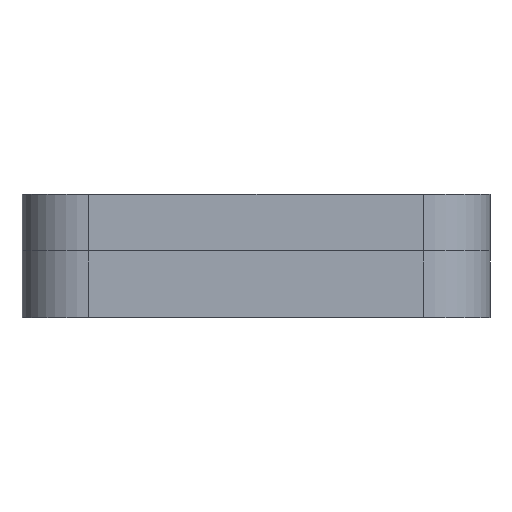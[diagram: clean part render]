
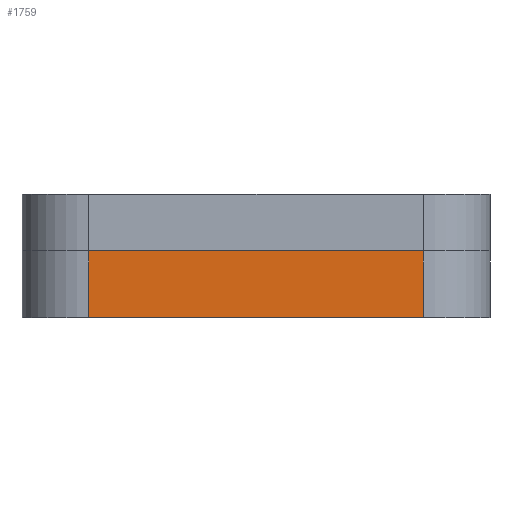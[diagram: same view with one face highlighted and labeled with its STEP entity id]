
A CAD part, front view. The second image highlights one B-rep face of the part: STEP entity #1759.
In plain terms, the highlighted planar face has unit normal (0, -1, 0).
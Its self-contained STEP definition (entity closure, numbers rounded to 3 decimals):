
#32 = PLANE('',#33);
#33 = AXIS2_PLACEMENT_3D('',#34,#35,#36);
#34 = CARTESIAN_POINT('',(0.,0.,13.));
#35 = DIRECTION('',(0.,0.,1.));
#36 = DIRECTION('',(1.,0.,0.));
#263 = VERTEX_POINT('',#264);
#264 = CARTESIAN_POINT('',(-32.5,-45.5,13.));
#279 = CYLINDRICAL_SURFACE('',#280,13.);
#280 = AXIS2_PLACEMENT_3D('',#281,#282,#283);
#281 = CARTESIAN_POINT('',(-32.5,-32.5,0.));
#282 = DIRECTION('',(-0.,-0.,-1.));
#283 = DIRECTION('',(-1.,0.,0.));
#291 = EDGE_CURVE('',#263,#292,#294,.T.);
#292 = VERTEX_POINT('',#293);
#293 = CARTESIAN_POINT('',(32.5,-45.5,13.));
#294 = SURFACE_CURVE('',#295,(#299,#306),.PCURVE_S1.);
#295 = LINE('',#296,#297);
#296 = CARTESIAN_POINT('',(-32.5,-45.5,13.));
#297 = VECTOR('',#298,1.);
#298 = DIRECTION('',(1.,0.,0.));
#299 = PCURVE('',#32,#300);
#300 = DEFINITIONAL_REPRESENTATION('',(#301),#305);
#301 = LINE('',#302,#303);
#302 = CARTESIAN_POINT('',(-32.5,-45.5));
#303 = VECTOR('',#304,1.);
#304 = DIRECTION('',(1.,0.));
#305 = ( GEOMETRIC_REPRESENTATION_CONTEXT(2) 
PARAMETRIC_REPRESENTATION_CONTEXT() REPRESENTATION_CONTEXT('2D SPACE',''
  ) );
#306 = PCURVE('',#307,#312);
#307 = PLANE('',#308);
#308 = AXIS2_PLACEMENT_3D('',#309,#310,#311);
#309 = CARTESIAN_POINT('',(-32.5,-45.5,0.));
#310 = DIRECTION('',(0.,1.,0.));
#311 = DIRECTION('',(1.,0.,0.));
#312 = DEFINITIONAL_REPRESENTATION('',(#313),#317);
#313 = LINE('',#314,#315);
#314 = CARTESIAN_POINT('',(0.,-13.));
#315 = VECTOR('',#316,1.);
#316 = DIRECTION('',(1.,0.));
#317 = ( GEOMETRIC_REPRESENTATION_CONTEXT(2) 
PARAMETRIC_REPRESENTATION_CONTEXT() REPRESENTATION_CONTEXT('2D SPACE',''
  ) );
#336 = CYLINDRICAL_SURFACE('',#337,13.);
#337 = AXIS2_PLACEMENT_3D('',#338,#339,#340);
#338 = CARTESIAN_POINT('',(32.5,-32.5,0.));
#339 = DIRECTION('',(-0.,-0.,-1.));
#340 = DIRECTION('',(0.,-1.,0.));
#1597 = PLANE('',#1598);
#1598 = AXIS2_PLACEMENT_3D('',#1599,#1600,#1601);
#1599 = CARTESIAN_POINT('',(0.,0.,0.));
#1600 = DIRECTION('',(0.,0.,1.));
#1601 = DIRECTION('',(1.,0.,0.));
#1713 = EDGE_CURVE('',#1714,#292,#1716,.T.);
#1714 = VERTEX_POINT('',#1715);
#1715 = CARTESIAN_POINT('',(32.5,-45.5,0.));
#1716 = SURFACE_CURVE('',#1717,(#1721,#1728),.PCURVE_S1.);
#1717 = LINE('',#1718,#1719);
#1718 = CARTESIAN_POINT('',(32.5,-45.5,0.));
#1719 = VECTOR('',#1720,1.);
#1720 = DIRECTION('',(0.,0.,1.));
#1721 = PCURVE('',#336,#1722);
#1722 = DEFINITIONAL_REPRESENTATION('',(#1723),#1727);
#1723 = LINE('',#1724,#1725);
#1724 = CARTESIAN_POINT('',(-0.,0.));
#1725 = VECTOR('',#1726,1.);
#1726 = DIRECTION('',(-0.,-1.));
#1727 = ( GEOMETRIC_REPRESENTATION_CONTEXT(2) 
PARAMETRIC_REPRESENTATION_CONTEXT() REPRESENTATION_CONTEXT('2D SPACE',''
  ) );
#1728 = PCURVE('',#307,#1729);
#1729 = DEFINITIONAL_REPRESENTATION('',(#1730),#1734);
#1730 = LINE('',#1731,#1732);
#1731 = CARTESIAN_POINT('',(65.,0.));
#1732 = VECTOR('',#1733,1.);
#1733 = DIRECTION('',(0.,-1.));
#1734 = ( GEOMETRIC_REPRESENTATION_CONTEXT(2) 
PARAMETRIC_REPRESENTATION_CONTEXT() REPRESENTATION_CONTEXT('2D SPACE',''
  ) );
#1759 = ADVANCED_FACE('',(#1760),#307,.F.);
#1760 = FACE_BOUND('',#1761,.F.);
#1761 = EDGE_LOOP('',(#1762,#1785,#1786,#1787));
#1762 = ORIENTED_EDGE('',*,*,#1763,.T.);
#1763 = EDGE_CURVE('',#1764,#263,#1766,.T.);
#1764 = VERTEX_POINT('',#1765);
#1765 = CARTESIAN_POINT('',(-32.5,-45.5,0.));
#1766 = SURFACE_CURVE('',#1767,(#1771,#1778),.PCURVE_S1.);
#1767 = LINE('',#1768,#1769);
#1768 = CARTESIAN_POINT('',(-32.5,-45.5,0.));
#1769 = VECTOR('',#1770,1.);
#1770 = DIRECTION('',(0.,0.,1.));
#1771 = PCURVE('',#307,#1772);
#1772 = DEFINITIONAL_REPRESENTATION('',(#1773),#1777);
#1773 = LINE('',#1774,#1775);
#1774 = CARTESIAN_POINT('',(0.,0.));
#1775 = VECTOR('',#1776,1.);
#1776 = DIRECTION('',(0.,-1.));
#1777 = ( GEOMETRIC_REPRESENTATION_CONTEXT(2) 
PARAMETRIC_REPRESENTATION_CONTEXT() REPRESENTATION_CONTEXT('2D SPACE',''
  ) );
#1778 = PCURVE('',#279,#1779);
#1779 = DEFINITIONAL_REPRESENTATION('',(#1780),#1784);
#1780 = LINE('',#1781,#1782);
#1781 = CARTESIAN_POINT('',(-1.571,0.));
#1782 = VECTOR('',#1783,1.);
#1783 = DIRECTION('',(-0.,-1.));
#1784 = ( GEOMETRIC_REPRESENTATION_CONTEXT(2) 
PARAMETRIC_REPRESENTATION_CONTEXT() REPRESENTATION_CONTEXT('2D SPACE',''
  ) );
#1785 = ORIENTED_EDGE('',*,*,#291,.T.);
#1786 = ORIENTED_EDGE('',*,*,#1713,.F.);
#1787 = ORIENTED_EDGE('',*,*,#1788,.F.);
#1788 = EDGE_CURVE('',#1764,#1714,#1789,.T.);
#1789 = SURFACE_CURVE('',#1790,(#1794,#1801),.PCURVE_S1.);
#1790 = LINE('',#1791,#1792);
#1791 = CARTESIAN_POINT('',(-32.5,-45.5,0.));
#1792 = VECTOR('',#1793,1.);
#1793 = DIRECTION('',(1.,0.,0.));
#1794 = PCURVE('',#307,#1795);
#1795 = DEFINITIONAL_REPRESENTATION('',(#1796),#1800);
#1796 = LINE('',#1797,#1798);
#1797 = CARTESIAN_POINT('',(0.,0.));
#1798 = VECTOR('',#1799,1.);
#1799 = DIRECTION('',(1.,0.));
#1800 = ( GEOMETRIC_REPRESENTATION_CONTEXT(2) 
PARAMETRIC_REPRESENTATION_CONTEXT() REPRESENTATION_CONTEXT('2D SPACE',''
  ) );
#1801 = PCURVE('',#1597,#1802);
#1802 = DEFINITIONAL_REPRESENTATION('',(#1803),#1807);
#1803 = LINE('',#1804,#1805);
#1804 = CARTESIAN_POINT('',(-32.5,-45.5));
#1805 = VECTOR('',#1806,1.);
#1806 = DIRECTION('',(1.,0.));
#1807 = ( GEOMETRIC_REPRESENTATION_CONTEXT(2) 
PARAMETRIC_REPRESENTATION_CONTEXT() REPRESENTATION_CONTEXT('2D SPACE',''
  ) );
